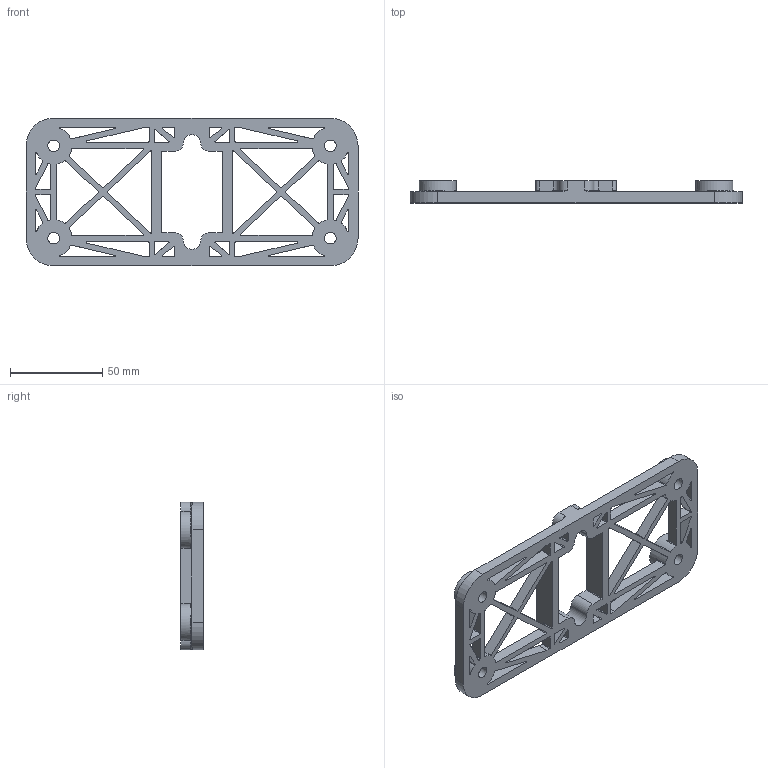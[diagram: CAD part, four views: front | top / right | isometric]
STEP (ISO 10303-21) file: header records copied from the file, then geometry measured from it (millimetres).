
FILE_DESCRIPTION (( 'STEP AP203' ), '1' );
FILE_NAME ('Loc Fix - FM.STEP', '2024-12-02T15:56:08', ( '' ), ( '' ), 'SwSTEP 2.0', 'SolidWorks 2024', '' );
FILE_SCHEMA (( 'CONFIG_CONTROL_DESIGN' ));
Length unit declared in the file: millimetre
Products named in the file (1): Loc Fix - FM
Bounding box: 180 x 12 x 80 mm (x, y, z)
Volume: 53898.7 mm3; surface area: 33737.4 mm2
Topology: 1 solids, 1 shells, 312 faces, 972 edges, 640 vertices
Faces by surface type: cylinder 166, plane 114, torus 32
Full cylindrical faces by diameter (mm): 6.35 x4, 10.35 x4, 20 x4
Entity records: 11417 total; most frequent: CARTESIAN_POINT 2565, ORIENTED_EDGE 1912, DIRECTION 1794, EDGE_CURVE 956, AXIS2_PLACEMENT_3D 645, VERTEX_POINT 636, VECTOR 504, LINE 504
